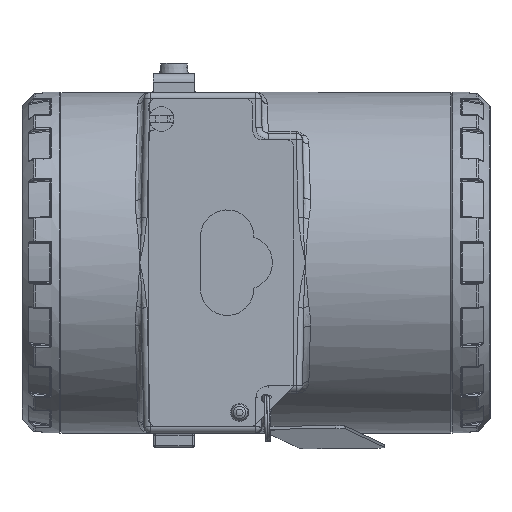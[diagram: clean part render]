
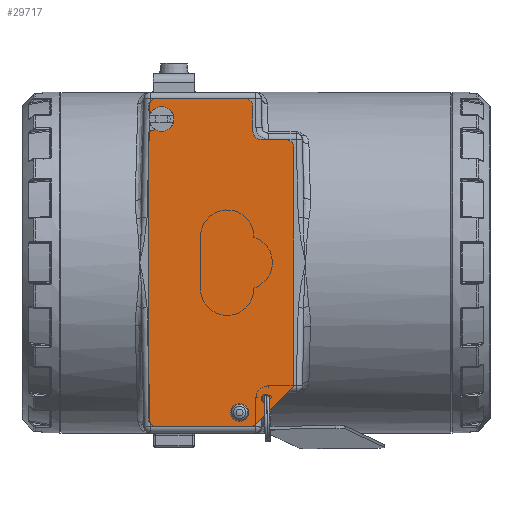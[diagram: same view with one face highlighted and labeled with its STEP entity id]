
A CAD part, left-side view. The second image highlights one B-rep face of the part: STEP entity #29717.
In plain terms, the highlighted planar face has unit normal (-1, 0, 0) as drawn and (0, 0, 1) by its records, which use the part's own axes.
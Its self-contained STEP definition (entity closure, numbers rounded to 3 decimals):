
#2742=FACE_BOUND('',#8767,.T.);
#2743=FACE_BOUND('',#8768,.T.);
#2968=PLANE('',#32911);
#3811=LINE('',#56378,#4956);
#3818=LINE('',#56409,#4963);
#3830=LINE('',#56450,#4975);
#3834=LINE('',#56460,#4979);
#3837=LINE('',#56468,#4982);
#3839=LINE('',#56474,#4984);
#3842=LINE('',#56482,#4987);
#3844=LINE('',#56488,#4989);
#3846=LINE('',#56495,#4991);
#3848=LINE('',#56500,#4993);
#4956=VECTOR('',#38948,10.);
#4963=VECTOR('',#38979,10.);
#4975=VECTOR('',#39015,10.);
#4979=VECTOR('',#39025,10.);
#4982=VECTOR('',#39034,10.);
#4984=VECTOR('',#39042,10.);
#4987=VECTOR('',#39051,10.);
#4989=VECTOR('',#39059,10.);
#4991=VECTOR('',#39067,10.);
#4993=VECTOR('',#39075,10.);
#6767=FACE_OUTER_BOUND('',#8766,.T.);
#8766=EDGE_LOOP('',(#23896,#23897,#23898,#23899,#23900,#23901,#23902,#23903,
#23904,#23905,#23906,#23907,#23908,#23909,#23910,#23911,#23912,#23913,#23914,
#23915));
#8767=EDGE_LOOP('',(#23916,#23917));
#8768=EDGE_LOOP('',(#23918,#23919));
#10762=CIRCLE('',#32864,2.);
#10763=CIRCLE('',#32867,1.);
#10764=CIRCLE('',#32868,1.);
#10766=CIRCLE('',#32871,1.35);
#10767=CIRCLE('',#32872,1.35);
#10769=CIRCLE('',#32875,1.);
#10779=CIRCLE('',#32888,1.);
#10780=CIRCLE('',#32891,2.);
#10781=CIRCLE('',#32894,2.);
#10782=CIRCLE('',#32897,2.);
#10783=CIRCLE('',#32900,2.);
#10784=CIRCLE('',#32903,2.);
#10785=CIRCLE('',#32906,2.);
#10786=CIRCLE('',#32909,2.1);
#13383=VERTEX_POINT('',#56368);
#13384=VERTEX_POINT('',#56370);
#13386=VERTEX_POINT('',#56376);
#13387=VERTEX_POINT('',#56380);
#13388=VERTEX_POINT('',#56381);
#13390=VERTEX_POINT('',#56388);
#13391=VERTEX_POINT('',#56389);
#13393=VERTEX_POINT('',#56396);
#13394=VERTEX_POINT('',#56397);
#13398=VERTEX_POINT('',#56407);
#13413=VERTEX_POINT('',#56442);
#13414=VERTEX_POINT('',#56443);
#13415=VERTEX_POINT('',#56448);
#13416=VERTEX_POINT('',#56452);
#13417=VERTEX_POINT('',#56453);
#13418=VERTEX_POINT('',#56458);
#13419=VERTEX_POINT('',#56462);
#13420=VERTEX_POINT('',#56466);
#13421=VERTEX_POINT('',#56470);
#13422=VERTEX_POINT('',#56476);
#13423=VERTEX_POINT('',#56480);
#13424=VERTEX_POINT('',#56484);
#13425=VERTEX_POINT('',#56490);
#13426=VERTEX_POINT('',#56494);
#16982=EDGE_CURVE('',#13383,#13384,#10762,.T.);
#16986=EDGE_CURVE('',#13386,#13383,#3811,.T.);
#16987=EDGE_CURVE('',#13387,#13388,#10763,.T.);
#16988=EDGE_CURVE('',#13388,#13387,#10764,.T.);
#16991=EDGE_CURVE('',#13390,#13391,#10766,.T.);
#16992=EDGE_CURVE('',#13391,#13390,#10767,.T.);
#16995=EDGE_CURVE('',#13393,#13394,#10769,.T.);
#17001=EDGE_CURVE('',#13398,#13393,#3818,.T.);
#17018=EDGE_CURVE('',#13413,#13414,#10779,.T.);
#17022=EDGE_CURVE('',#13415,#13413,#3830,.T.);
#17023=EDGE_CURVE('',#13416,#13417,#10780,.T.);
#17027=EDGE_CURVE('',#13418,#13416,#3834,.T.);
#17028=EDGE_CURVE('',#13419,#13418,#10781,.T.);
#17031=EDGE_CURVE('',#13420,#13419,#3837,.T.);
#17032=EDGE_CURVE('',#13421,#13420,#10782,.T.);
#17034=EDGE_CURVE('',#13384,#13421,#3839,.T.);
#17035=EDGE_CURVE('',#13422,#13386,#10783,.T.);
#17038=EDGE_CURVE('',#13423,#13422,#3842,.T.);
#17039=EDGE_CURVE('',#13424,#13423,#10784,.T.);
#17041=EDGE_CURVE('',#13394,#13424,#3844,.T.);
#17042=EDGE_CURVE('',#13425,#13415,#10785,.T.);
#17044=EDGE_CURVE('',#13414,#13426,#3846,.T.);
#17046=EDGE_CURVE('',#13426,#13398,#10786,.T.);
#17047=EDGE_CURVE('',#13417,#13425,#3848,.T.);
#23896=ORIENTED_EDGE('',*,*,#16995,.F.);
#23897=ORIENTED_EDGE('',*,*,#17001,.F.);
#23898=ORIENTED_EDGE('',*,*,#17046,.F.);
#23899=ORIENTED_EDGE('',*,*,#17044,.F.);
#23900=ORIENTED_EDGE('',*,*,#17018,.F.);
#23901=ORIENTED_EDGE('',*,*,#17022,.F.);
#23902=ORIENTED_EDGE('',*,*,#17042,.F.);
#23903=ORIENTED_EDGE('',*,*,#17047,.F.);
#23904=ORIENTED_EDGE('',*,*,#17023,.F.);
#23905=ORIENTED_EDGE('',*,*,#17027,.F.);
#23906=ORIENTED_EDGE('',*,*,#17028,.F.);
#23907=ORIENTED_EDGE('',*,*,#17031,.F.);
#23908=ORIENTED_EDGE('',*,*,#17032,.F.);
#23909=ORIENTED_EDGE('',*,*,#17034,.F.);
#23910=ORIENTED_EDGE('',*,*,#16982,.F.);
#23911=ORIENTED_EDGE('',*,*,#16986,.F.);
#23912=ORIENTED_EDGE('',*,*,#17035,.F.);
#23913=ORIENTED_EDGE('',*,*,#17038,.F.);
#23914=ORIENTED_EDGE('',*,*,#17039,.F.);
#23915=ORIENTED_EDGE('',*,*,#17041,.F.);
#23916=ORIENTED_EDGE('',*,*,#16987,.T.);
#23917=ORIENTED_EDGE('',*,*,#16988,.T.);
#23918=ORIENTED_EDGE('',*,*,#16991,.T.);
#23919=ORIENTED_EDGE('',*,*,#16992,.T.);
#29717=ADVANCED_FACE('',(#6767,#2742,#2743),#2968,.T.);
#32864=AXIS2_PLACEMENT_3D('',#56371,#38941,#38942);
#32867=AXIS2_PLACEMENT_3D('',#56382,#38951,#38952);
#32868=AXIS2_PLACEMENT_3D('',#56383,#38953,#38954);
#32871=AXIS2_PLACEMENT_3D('',#56390,#38960,#38961);
#32872=AXIS2_PLACEMENT_3D('',#56391,#38962,#38963);
#32875=AXIS2_PLACEMENT_3D('',#56398,#38969,#38970);
#32888=AXIS2_PLACEMENT_3D('',#56444,#39008,#39009);
#32891=AXIS2_PLACEMENT_3D('',#56454,#39018,#39019);
#32894=AXIS2_PLACEMENT_3D('',#56463,#39028,#39029);
#32897=AXIS2_PLACEMENT_3D('',#56471,#39037,#39038);
#32900=AXIS2_PLACEMENT_3D('',#56477,#39045,#39046);
#32903=AXIS2_PLACEMENT_3D('',#56485,#39054,#39055);
#32906=AXIS2_PLACEMENT_3D('',#56491,#39062,#39063);
#32909=AXIS2_PLACEMENT_3D('',#56498,#39071,#39072);
#32911=AXIS2_PLACEMENT_3D('',#56501,#39076,#39077);
#38941=DIRECTION('center_axis',(0.,0.,1.));
#38942=DIRECTION('ref_axis',(-0.707,0.707,0.));
#38948=DIRECTION('',(-1.,0.,0.));
#38951=DIRECTION('center_axis',(0.,0.,-1.));
#38952=DIRECTION('ref_axis',(1.,0.,0.));
#38953=DIRECTION('center_axis',(0.,0.,-1.));
#38954=DIRECTION('ref_axis',(1.,0.,0.));
#38960=DIRECTION('center_axis',(0.,0.,-1.));
#38961=DIRECTION('ref_axis',(1.,0.,0.));
#38962=DIRECTION('center_axis',(0.,0.,-1.));
#38963=DIRECTION('ref_axis',(1.,0.,0.));
#38969=DIRECTION('center_axis',(0.,0.,-1.));
#38970=DIRECTION('ref_axis',(-0.793,0.609,0.));
#38979=DIRECTION('',(-0.259,0.966,0.));
#39008=DIRECTION('center_axis',(0.,0.,-1.));
#39009=DIRECTION('ref_axis',(0.609,0.793,0.));
#39015=DIRECTION('',(1.,0.,0.));
#39018=DIRECTION('center_axis',(0.,0.,-1.));
#39019=DIRECTION('ref_axis',(-0.924,-0.383,0.));
#39025=DIRECTION('',(-0.707,0.707,0.));
#39028=DIRECTION('center_axis',(0.,0.,-1.));
#39029=DIRECTION('ref_axis',(-0.383,-0.924,0.));
#39034=DIRECTION('',(-1.,0.,0.));
#39037=DIRECTION('center_axis',(0.,0.,-1.));
#39038=DIRECTION('ref_axis',(0.707,-0.707,0.));
#39042=DIRECTION('',(0.,-1.,0.));
#39045=DIRECTION('center_axis',(0.,0.,-1.));
#39046=DIRECTION('ref_axis',(0.707,-0.707,0.));
#39051=DIRECTION('',(0.,-1.,0.));
#39054=DIRECTION('center_axis',(0.,0.,-1.));
#39055=DIRECTION('ref_axis',(0.707,0.707,0.));
#39059=DIRECTION('',(1.,0.,0.));
#39062=DIRECTION('center_axis',(0.,0.,-1.));
#39063=DIRECTION('ref_axis',(-0.707,0.707,0.));
#39067=DIRECTION('',(0.259,-0.966,0.));
#39071=DIRECTION('center_axis',(0.,0.,1.));
#39072=DIRECTION('ref_axis',(-0.966,-0.259,0.));
#39075=DIRECTION('',(0.,1.,0.));
#39076=DIRECTION('center_axis',(0.,0.,1.));
#39077=DIRECTION('ref_axis',(1.,0.,0.));
#56368=CARTESIAN_POINT('',(32.,-7.75,0.7));
#56370=CARTESIAN_POINT('',(30.,-9.75,0.7));
#56371=CARTESIAN_POINT('Origin',(32.,-9.75,0.7));
#56376=CARTESIAN_POINT('',(38.,-7.75,0.7));
#56378=CARTESIAN_POINT('',(40.,-7.75,0.7));
#56380=CARTESIAN_POINT('',(-32.,-10.75,0.7));
#56381=CARTESIAN_POINT('',(-34.,-10.75,0.7));
#56382=CARTESIAN_POINT('Origin',(-33.,-10.75,0.7));
#56383=CARTESIAN_POINT('Origin',(-33.,-10.75,0.7));
#56388=CARTESIAN_POINT('',(-35.15,-4.5,0.7));
#56389=CARTESIAN_POINT('',(-37.85,-4.5,0.7));
#56390=CARTESIAN_POINT('Origin',(-36.5,-4.5,0.7));
#56391=CARTESIAN_POINT('Origin',(-36.5,-4.5,0.7));
#56396=CARTESIAN_POINT('',(36.641,16.491,0.7));
#56397=CARTESIAN_POINT('',(37.606,17.75,0.7));
#56398=CARTESIAN_POINT('Origin',(37.606,16.75,0.7));
#56407=CARTESIAN_POINT('',(37.028,15.044,0.7));
#56409=CARTESIAN_POINT('',(37.028,15.044,0.7));
#56442=CARTESIAN_POINT('',(31.188,17.75,0.7));
#56443=CARTESIAN_POINT('',(32.154,17.009,0.7));
#56444=CARTESIAN_POINT('Origin',(31.188,16.75,0.7));
#56448=CARTESIAN_POINT('',(-38.,17.75,0.7));
#56450=CARTESIAN_POINT('',(-40.,17.75,0.7));
#56452=CARTESIAN_POINT('',(-39.414,-8.336,0.7));
#56453=CARTESIAN_POINT('',(-40.,-6.922,0.7));
#56454=CARTESIAN_POINT('Origin',(-38.,-6.922,0.7));
#56458=CARTESIAN_POINT('',(-30.586,-17.164,0.7));
#56460=CARTESIAN_POINT('',(-30.,-17.75,0.7));
#56462=CARTESIAN_POINT('',(-29.172,-17.75,0.7));
#56463=CARTESIAN_POINT('Origin',(-29.172,-15.75,0.7));
#56466=CARTESIAN_POINT('',(28.,-17.75,0.7));
#56468=CARTESIAN_POINT('',(30.,-17.75,0.7));
#56470=CARTESIAN_POINT('',(30.,-15.75,0.7));
#56471=CARTESIAN_POINT('Origin',(28.,-15.75,0.7));
#56474=CARTESIAN_POINT('',(30.,-7.75,0.7));
#56476=CARTESIAN_POINT('',(40.,-5.75,0.7));
#56477=CARTESIAN_POINT('Origin',(38.,-5.75,0.7));
#56480=CARTESIAN_POINT('',(40.,15.75,0.7));
#56482=CARTESIAN_POINT('',(40.,17.75,0.7));
#56484=CARTESIAN_POINT('',(38.,17.75,0.7));
#56485=CARTESIAN_POINT('Origin',(38.,15.75,0.7));
#56488=CARTESIAN_POINT('',(36.303,17.75,0.7));
#56490=CARTESIAN_POINT('',(-40.,15.75,0.7));
#56491=CARTESIAN_POINT('Origin',(-38.,15.75,0.7));
#56494=CARTESIAN_POINT('',(32.972,13.956,0.7));
#56495=CARTESIAN_POINT('',(31.955,17.75,0.7));
#56498=CARTESIAN_POINT('Origin',(35.,14.5,0.7));
#56500=CARTESIAN_POINT('',(-40.,-7.75,0.7));
#56501=CARTESIAN_POINT('Origin',(2.007,1.468,0.7));
